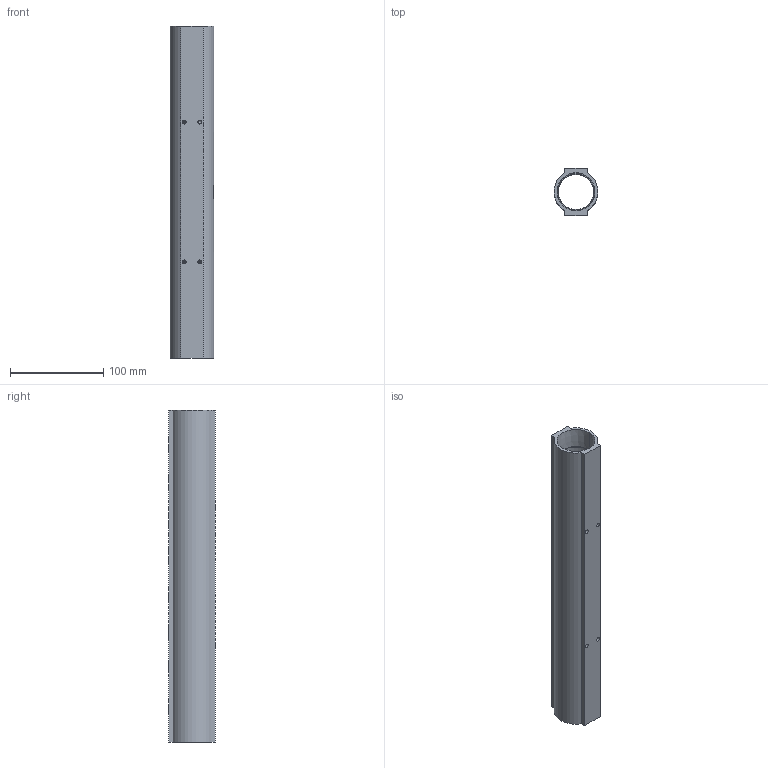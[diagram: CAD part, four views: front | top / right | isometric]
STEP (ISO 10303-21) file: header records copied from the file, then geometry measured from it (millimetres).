
FILE_DESCRIPTION (( 'STEP AP214' ), '1' );
FILE_NAME ('BWM8620B.STEP', '2022-03-15T05:39:58', ( '' ), ( '' ), 'SwSTEP 2.0', 'SolidWorks 2020', '' );
FILE_SCHEMA (( 'AUTOMOTIVE_DESIGN' ));
Length unit declared in the file: millimetre
Products named in the file (1): BWM8620B
Bounding box: 47 x 50 x 356 mm (x, y, z)
Volume: 241828.5 mm3; surface area: 102471.6 mm2
Topology: 1 solids, 1 shells, 226 faces, 604 edges, 396 vertices
Faces by surface type: plane 90, bspline 65, cylinder 43, cone 28
Entity records: 13146 total; most frequent: CARTESIAN_POINT 6062, ORIENTED_EDGE 1192, DIRECTION 742, EDGE_CURVE 596, VERTEX_POINT 396, VECTOR 286, LINE 286, EDGE_LOOP 268
